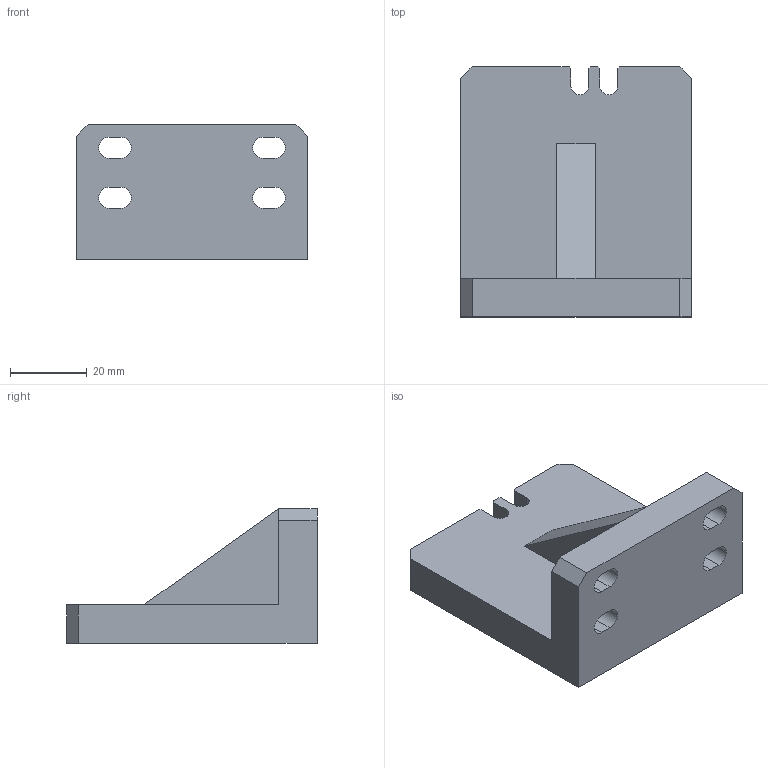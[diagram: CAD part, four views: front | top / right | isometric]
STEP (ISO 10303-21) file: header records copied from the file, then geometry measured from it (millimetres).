
FILE_DESCRIPTION(('CATIA V5 STEP Exchange'),'2;1');
FILE_NAME('D:\姚明阳\1、工装图纸\AGZ036 按压速降阀管箍锁紧工装\AGZ036.06_V1.stp','2025-08-27T06:36:32+00:00',('none'),('none'),'CATIA Version 5 Release 21 GA (IN-10)','CATIA V5 STEP AP214','none');
FILE_SCHEMA(('AUTOMOTIVE_DESIGN { 1 0 10303 214 1 1 1 1 }'));
Length unit declared in the file: millimetre
Products named in the file (1): AGZ036.06_V1
Bounding box: 60 x 65 x 35 mm (x, y, z)
Volume: 55953.5 mm3; surface area: 15122.5 mm2
Topology: 1 solids, 1 shells, 44 faces, 124 edges, 82 vertices
Faces by surface type: plane 34, cylinder 10
Entity records: 1412 total; most frequent: ORIENTED_EDGE 248, CARTESIAN_POINT 247, DIRECTION 204, EDGE_CURVE 124, VECTOR 104, LINE 104, VERTEX_POINT 82, AXIS2_PLACEMENT_3D 61
